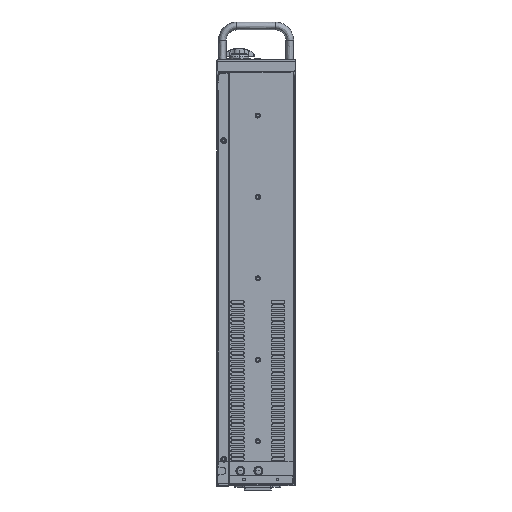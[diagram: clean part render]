
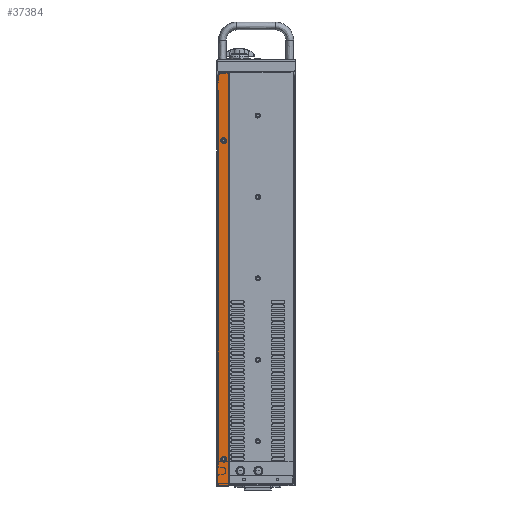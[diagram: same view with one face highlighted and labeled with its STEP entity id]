
A CAD part, left-side view. The second image highlights one B-rep face of the part: STEP entity #37384.
In plain terms, the highlighted planar face has unit normal (-1, 0, 0).
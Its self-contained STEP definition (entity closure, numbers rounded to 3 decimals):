
#1964 = LINE ( 'NONE', #124677, #62814 ) ;
#2485 = VECTOR ( 'NONE', #56751, 1000. ) ;
#3169 = DIRECTION ( 'NONE',  ( 0., 0., 1. ) ) ;
#5448 = AXIS2_PLACEMENT_3D ( 'NONE', #129986, #57294, #142207 ) ;
#5502 = EDGE_CURVE ( 'NONE', #106309, #89808, #6368, .T. ) ;
#6286 = CARTESIAN_POINT ( 'NONE',  ( -213.2, 75.8, 233.05 ) ) ;
#6368 = LINE ( 'NONE', #6286, #127951 ) ;
#7136 = EDGE_CURVE ( 'NONE', #59940, #84346, #140929, .T. ) ;
#7311 = VERTEX_POINT ( 'NONE', #84271 ) ;
#7841 = CARTESIAN_POINT ( 'NONE',  ( -213.2, 86.7, 464.7 ) ) ;
#8183 = VERTEX_POINT ( 'NONE', #9762 ) ;
#9595 = DIRECTION ( 'NONE',  ( 0., 0., 1. ) ) ;
#9762 = CARTESIAN_POINT ( 'NONE',  ( -213.2, 86.7, 463.1 ) ) ;
#11000 = CARTESIAN_POINT ( 'NONE',  ( -213.2, 75.8, -1.2 ) ) ;
#11081 = VERTEX_POINT ( 'NONE', #134573 ) ;
#16553 = CARTESIAN_POINT ( 'NONE',  ( -213.2, 80.8, 33.15 ) ) ;
#18545 = DIRECTION ( 'NONE',  ( 0., 0., -1. ) ) ;
#19655 = CIRCLE ( 'NONE', #104884, 1. ) ;
#31270 = EDGE_CURVE ( 'NONE', #97535, #7311, #103617, .T. ) ;
#32367 = CARTESIAN_POINT ( 'NONE',  ( -213.2, 85.7, 467.3 ) ) ;
#32810 = ORIENTED_EDGE ( 'NONE', *, *, #5502, .F. ) ;
#36448 = CARTESIAN_POINT ( 'NONE',  ( -213.2, 87.4, -1.2 ) ) ;
#37384 = ADVANCED_FACE ( 'NONE', ( #53013, #85200, #121305 ), #156458, .T. ) ;
#40481 = LINE ( 'NONE', #52380, #133575 ) ;
#44885 = ORIENTED_EDGE ( 'NONE', *, *, #111062, .F. ) ;
#45298 = ORIENTED_EDGE ( 'NONE', *, *, #70139, .T. ) ;
#45928 = EDGE_CURVE ( 'NONE', #61926, #11081, #151247, .T. ) ;
#46106 = CARTESIAN_POINT ( 'NONE',  ( -213.2, 76.8, -0.2 ) ) ;
#46467 = EDGE_CURVE ( 'NONE', #8183, #89566, #58069, .T. ) ;
#46613 = DIRECTION ( 'NONE',  ( -1., 0., 0. ) ) ;
#48363 = VERTEX_POINT ( 'NONE', #109394 ) ;
#52380 = CARTESIAN_POINT ( 'NONE',  ( -213.2, 81.6, -1.2 ) ) ;
#53013 = FACE_BOUND ( 'NONE', #111165, .T. ) ;
#55046 = ORIENTED_EDGE ( 'NONE', *, *, #101263, .T. ) ;
#56751 = DIRECTION ( 'NONE',  ( 0., 0., 1. ) ) ;
#57294 = DIRECTION ( 'NONE',  ( -1., 0., 0. ) ) ;
#58069 = LINE ( 'NONE', #137831, #118814 ) ;
#58329 = DIRECTION ( 'NONE',  ( 0., 0., 1. ) ) ;
#58772 = EDGE_CURVE ( 'NONE', #136642, #48363, #40481, .T. ) ;
#59308 = AXIS2_PLACEMENT_3D ( 'NONE', #142680, #70026, #154879 ) ;
#59940 = VERTEX_POINT ( 'NONE', #142157 ) ;
#61019 = AXIS2_PLACEMENT_3D ( 'NONE', #119321, #46613, #131524 ) ;
#61553 = ORIENTED_EDGE ( 'NONE', *, *, #45928, .F. ) ;
#61926 = VERTEX_POINT ( 'NONE', #16553 ) ;
#62741 = DIRECTION ( 'NONE',  ( -1., 0., 0. ) ) ;
#62814 = VECTOR ( 'NONE', #149080, 1000. ) ;
#65161 = DIRECTION ( 'NONE',  ( 0., 1., 0. ) ) ;
#68305 = AXIS2_PLACEMENT_3D ( 'NONE', #11000, #82203, #95946 ) ;
#70026 = DIRECTION ( 'NONE',  ( -1., 0., 0. ) ) ;
#70139 = EDGE_CURVE ( 'NONE', #106309, #7311, #115499, .T. ) ;
#70697 = CIRCLE ( 'NONE', #61019, 3.25 ) ;
#71342 = VECTOR ( 'NONE', #87815, 1000. ) ;
#75946 = DIRECTION ( 'NONE',  ( -1., 0., 0. ) ) ;
#77189 = EDGE_CURVE ( 'NONE', #8183, #117507, #103204, .T. ) ;
#82203 = DIRECTION ( 'NONE',  ( -1., 0., 0. ) ) ;
#82355 = DIRECTION ( 'NONE',  ( -1., 0., 0. ) ) ;
#84271 = CARTESIAN_POINT ( 'NONE',  ( -213.2, 76.8, 467.3 ) ) ;
#84346 = VERTEX_POINT ( 'NONE', #105199 ) ;
#84385 = ORIENTED_EDGE ( 'NONE', *, *, #77189, .F. ) ;
#85168 = ORIENTED_EDGE ( 'NONE', *, *, #86891, .F. ) ;
#85196 = CARTESIAN_POINT ( 'NONE',  ( -213.2, 87.4, 463.1 ) ) ;
#85200 = FACE_BOUND ( 'NONE', #115138, .T. ) ;
#86112 = CIRCLE ( 'NONE', #5448, 3.25 ) ;
#86891 = EDGE_CURVE ( 'NONE', #11081, #61926, #70697, .T. ) ;
#87815 = DIRECTION ( 'NONE',  ( 0., -1., 0. ) ) ;
#87999 = CARTESIAN_POINT ( 'NONE',  ( -213.2, 75.8, 466.3 ) ) ;
#89420 = EDGE_CURVE ( 'NONE', #89566, #136642, #1964, .T. ) ;
#89566 = VERTEX_POINT ( 'NONE', #85196 ) ;
#89808 = VERTEX_POINT ( 'NONE', #122976 ) ;
#95946 = DIRECTION ( 'NONE',  ( 0., 0., 1. ) ) ;
#97535 = VERTEX_POINT ( 'NONE', #32367 ) ;
#99127 = AXIS2_PLACEMENT_3D ( 'NONE', #46106, #131028, #58329 ) ;
#101263 = EDGE_CURVE ( 'NONE', #48363, #89808, #135268, .T. ) ;
#103204 = LINE ( 'NONE', #7841, #2485 ) ;
#103617 = LINE ( 'NONE', #136124, #71342 ) ;
#103929 = ORIENTED_EDGE ( 'NONE', *, *, #31270, .F. ) ;
#104884 = AXIS2_PLACEMENT_3D ( 'NONE', #135445, #62741, #147638 ) ;
#105199 = CARTESIAN_POINT ( 'NONE',  ( -213.2, 80.8, 393.15 ) ) ;
#105629 = ORIENTED_EDGE ( 'NONE', *, *, #46467, .T. ) ;
#105851 = ORIENTED_EDGE ( 'NONE', *, *, #58772, .T. ) ;
#106309 = VERTEX_POINT ( 'NONE', #87999 ) ;
#107229 = AXIS2_PLACEMENT_3D ( 'NONE', #155066, #82355, #9595 ) ;
#107734 = CARTESIAN_POINT ( 'NONE',  ( -213.2, 86.7, 466.3 ) ) ;
#109394 = CARTESIAN_POINT ( 'NONE',  ( -213.2, 76.8, -1.2 ) ) ;
#111062 = EDGE_CURVE ( 'NONE', #84346, #59940, #86112, .T. ) ;
#111165 = EDGE_LOOP ( 'NONE', ( #85168, #61553 ) ) ;
#112452 = EDGE_LOOP ( 'NONE', ( #45298, #103929, #135899, #84385, #105629, #133948, #105851, #55046, #32810 ) ) ;
#115138 = EDGE_LOOP ( 'NONE', ( #124456, #44885 ) ) ;
#115499 = CIRCLE ( 'NONE', #107229, 1. ) ;
#117507 = VERTEX_POINT ( 'NONE', #107734 ) ;
#118814 = VECTOR ( 'NONE', #65161, 1000. ) ;
#119321 = CARTESIAN_POINT ( 'NONE',  ( -213.2, 80.8, 29.9 ) ) ;
#121305 = FACE_OUTER_BOUND ( 'NONE', #112452, .T. ) ;
#122976 = CARTESIAN_POINT ( 'NONE',  ( -213.2, 75.8, -0.2 ) ) ;
#124456 = ORIENTED_EDGE ( 'NONE', *, *, #7136, .F. ) ;
#124677 = CARTESIAN_POINT ( 'NONE',  ( -213.2, 87.4, 233.05 ) ) ;
#126057 = DIRECTION ( 'NONE',  ( 0., -1., 0. ) ) ;
#127951 = VECTOR ( 'NONE', #18545, 1000. ) ;
#129986 = CARTESIAN_POINT ( 'NONE',  ( -213.2, 80.8, 389.9 ) ) ;
#131028 = DIRECTION ( 'NONE',  ( -1., 0., 0. ) ) ;
#131524 = DIRECTION ( 'NONE',  ( 0., 0., 1. ) ) ;
#133575 = VECTOR ( 'NONE', #126057, 1000. ) ;
#133948 = ORIENTED_EDGE ( 'NONE', *, *, #89420, .T. ) ;
#134573 = CARTESIAN_POINT ( 'NONE',  ( -213.2, 80.8, 26.65 ) ) ;
#135268 = CIRCLE ( 'NONE', #99127, 1. ) ;
#135445 = CARTESIAN_POINT ( 'NONE',  ( -213.2, 85.7, 466.3 ) ) ;
#135899 = ORIENTED_EDGE ( 'NONE', *, *, #156086, .T. ) ;
#136124 = CARTESIAN_POINT ( 'NONE',  ( -213.2, 81.25, 467.3 ) ) ;
#136642 = VERTEX_POINT ( 'NONE', #36448 ) ;
#137831 = CARTESIAN_POINT ( 'NONE',  ( -213.2, 87.55, 463.1 ) ) ;
#140929 = CIRCLE ( 'NONE', #59308, 3.25 ) ;
#142157 = CARTESIAN_POINT ( 'NONE',  ( -213.2, 80.8, 386.65 ) ) ;
#142207 = DIRECTION ( 'NONE',  ( 0., 0., 1. ) ) ;
#142680 = CARTESIAN_POINT ( 'NONE',  ( -213.2, 80.8, 389.9 ) ) ;
#147638 = DIRECTION ( 'NONE',  ( 0., 0., 1. ) ) ;
#148594 = CARTESIAN_POINT ( 'NONE',  ( -213.2, 80.8, 29.9 ) ) ;
#149080 = DIRECTION ( 'NONE',  ( 0., 0., -1. ) ) ;
#151247 = CIRCLE ( 'NONE', #155347, 3.25 ) ;
#154879 = DIRECTION ( 'NONE',  ( 0., 0., 1. ) ) ;
#155066 = CARTESIAN_POINT ( 'NONE',  ( -213.2, 76.8, 466.3 ) ) ;
#155347 = AXIS2_PLACEMENT_3D ( 'NONE', #148594, #75946, #3169 ) ;
#156086 = EDGE_CURVE ( 'NONE', #97535, #117507, #19655, .T. ) ;
#156458 = PLANE ( 'NONE',  #68305 ) ;
